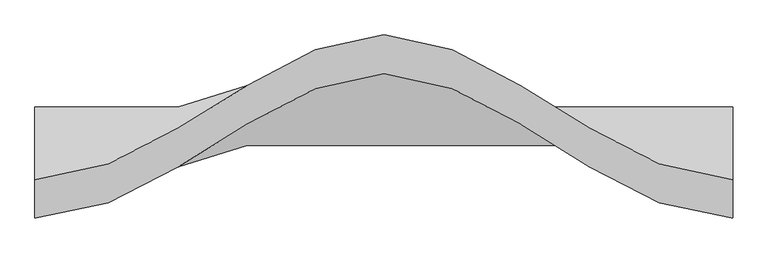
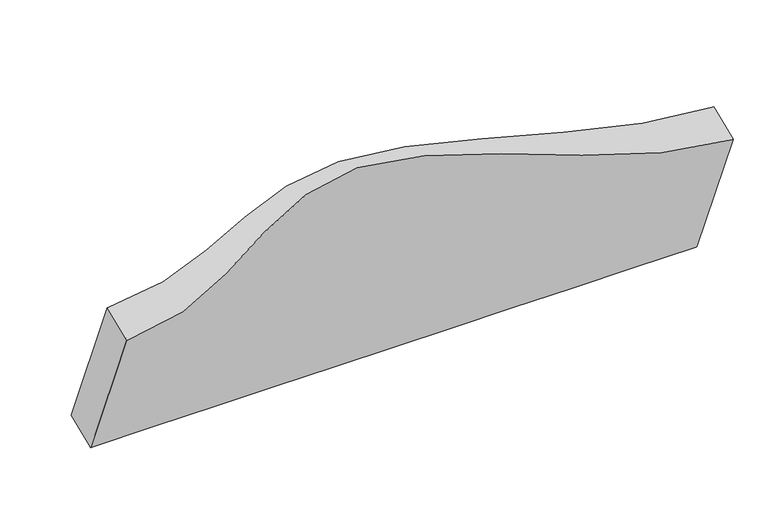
"""IFC4 building model written with IfcOpenShell, lengths in millimetres: plate geometry, مدل پارامتریک کصینوس دار : مدل پارامتریک کصینوس دار."""

from ifc_helpers import new_model, si_unit, frame, origin, place, context, project, spatial, source, transform, mapped, element, save
from ifc_brep_helpers import plane_surface, spline_curve, spline_surface, advanced_brep


def plate_91021fb5(model_context):
    return source(origin(), model_context, "Body", "AdvancedBrep", [
        advanced_brep(
        [(3000.0, 2000.6958488, 0.28823), (3000.0, 2111.5613927, 46.2102419), (5000.0, 2111.5613927, 46.2102419), (5000.0, 2000.6958488, 0.28823), (3000.0, 1904.4546115, 546.2102419), (5000.0, 1904.4546115, 546.2102419), (3000.0, 1793.5890676, 500.28823), (5000.0, 1793.5890676, 500.28823)],
        [
            (0, 1),
            (1, 2, spline_curve(3, [(3000.0, 2111.5613927, 46.2102419), (3001.333546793, 2111.5613927, 46.210696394), (3002.666933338, 2111.5613927, 46.211150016), (3350.399583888, 2111.5613927, 45.974266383), (3675.199791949, 2111.5613927, -46.2102419), (4324.800208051, 2111.5613927, -46.2102419), (4649.600416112, 2111.5613927, 45.974266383), (4997.333066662, 2111.5613927, 46.211150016), (4998.666453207, 2111.5613927, 46.210696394), (5000.0, 2111.5613927, 46.2102419)], [4, 2, 2, 2, 4], [0.0, 0.0019167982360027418, 0.4999999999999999, 0.9980832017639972, 1.0])),
            (2, 3),
            (3, 0, spline_curve(3, [(5000.0, 2000.6958488, 0.28823), (4998.666453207, 2000.6958488, 0.288232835), (4997.333066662, 2000.6958488, 0.288235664), (4649.600416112, 2000.6958488, 0.286758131), (4324.800208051, 2000.6958488, -0.28823), (3675.199791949, 2000.6958488, -0.28823), (3350.399583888, 2000.6958488, 0.286758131), (3002.666933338, 2000.6958488, 0.288235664), (3001.333546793, 2000.6958488, 0.288232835), (3000.0, 2000.6958488, 0.28823)], [4, 2, 2, 2, 4], [0.0, 0.0019167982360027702, 0.5000000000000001, 0.9980832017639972, 1.0])),
            (1, 4),
            (4, 5, spline_curve(3, [(3000.0, 1904.4546115, 546.2102419), (3001.333546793, 1904.452574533, 546.210696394), (3002.666933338, 1904.450541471, 546.211150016), (3350.399583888, 1905.512215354, 545.974266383), (3675.199791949, 2318.6681739, 453.7897581), (4324.800208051, 2318.6681739, 453.7897581), (4649.600416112, 1905.512215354, 545.974266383), (4997.333066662, 1904.450541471, 546.211150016), (4998.666453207, 1904.452574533, 546.210696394), (5000.0, 1904.4546115, 546.2102419)], [4, 2, 2, 2, 4], [0.0, 0.0019167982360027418, 0.4999999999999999, 0.9980832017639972, 1.0])),
            (5, 2),
            (4, 6),
            (6, 7, spline_curve(3, [(3000.0, 1793.5890676, 500.28823), (3001.333546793, 1793.587030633, 500.288232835), (3002.666933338, 1793.584997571, 500.288235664), (3350.399583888, 1794.646671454, 500.286758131), (3675.199791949, 2207.80263, 499.71177), (4324.800208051, 2207.80263, 499.71177), (4649.600416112, 1794.646671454, 500.286758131), (4997.333066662, 1793.584997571, 500.288235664), (4998.666453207, 1793.587030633, 500.288232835), (5000.0, 1793.5890676, 500.28823)], [4, 2, 2, 2, 4], [0.0, 0.0019167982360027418, 0.4999999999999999, 0.9980832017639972, 1.0])),
            (7, 5),
            (6, 0),
            (3, 7),
        ],
        [
            spline_surface(3, 3, [[(3000.0, 2000.6958488, 0.28823), (3001.333546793, 2000.6958488, 0.288232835), (3002.666933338, 2000.6958488, 0.288235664), (3350.39958389, 2000.6958488, 0.286758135), (3675.199791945, 2000.6958488, -0.28823), (4324.800208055, 2000.6958488, -0.28823), (4649.600416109, 2000.6958488, 0.286758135), (4997.333066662, 2000.6958488, 0.288235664), (4998.666453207, 2000.6958488, 0.288232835), (5000.0, 2000.6958488, 0.28823)], [(3000.0, 2037.6510301, 15.595567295), (3001.333546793, 2037.6510301, 15.595720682), (3002.666933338, 2037.6510301, 15.595873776), (3350.39958389, 2037.6510301, 15.515927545), (3675.199791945, 2037.6510301, -15.595567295), (4324.800208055, 2037.6510301, -15.595567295), (4649.600416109, 2037.6510301, 15.515927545), (4997.333066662, 2037.6510301, 15.595873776), (4998.666453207, 2037.6510301, 15.595720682), (5000.0, 2037.6510301, 15.595567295)], [(3000.0, 2074.6062114, 30.902904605), (3001.333546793, 2074.6062114, 30.903208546), (3002.666933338, 2074.6062114, 30.903511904), (3350.39958389, 2074.6062114, 30.745096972), (3675.199791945, 2074.6062114, -30.902904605), (4324.800208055, 2074.6062114, -30.902904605), (4649.600416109, 2074.6062114, 30.745096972), (4997.333066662, 2074.6062114, 30.903511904), (4998.666453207, 2074.6062114, 30.903208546), (5000.0, 2074.6062114, 30.902904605)], [(3000.0, 2111.5613927, 46.2102419), (3001.333546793, 2111.5613927, 46.210696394), (3002.666933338, 2111.5613927, 46.211150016), (3350.39958389, 2111.5613927, 45.974266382), (3675.199791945, 2111.5613927, -46.2102419), (4324.800208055, 2111.5613927, -46.2102419), (4649.600416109, 2111.5613927, 45.974266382), (4997.333066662, 2111.5613927, 46.211150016), (4998.666453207, 2111.5613927, 46.210696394), (5000.0, 2111.5613927, 46.2102419)]], [4, 4], [4, 2, 2, 2, 4], [0.0, 1.0], [0.0, 0.0019167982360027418, 0.4999999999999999, 0.9980832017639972, 1.0]),
            spline_surface(3, 3, [[(3000.0, 2111.5613927, 46.2102419), (3001.333546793, 2111.5613927, 46.210696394), (3002.666933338, 2111.5613927, 46.211150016), (3350.39958389, 2111.5613927, 45.974266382), (3675.199791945, 2111.5613927, -46.2102419), (4324.800208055, 2111.5613927, -46.2102419), (4649.600416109, 2111.5613927, 45.974266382), (4997.333066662, 2111.5613927, 46.211150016), (4998.666453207, 2111.5613927, 46.210696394), (5000.0, 2111.5613927, 46.2102419)], [(3000.0, 2042.525798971, 212.876908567), (3001.333546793, 2042.525119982, 212.87736306), (3002.666933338, 2042.524442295, 212.877816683), (3350.39958389, 2042.87833359, 212.640933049), (3675.199791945, 2180.596986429, 120.456424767), (4324.800208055, 2180.596986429, 120.456424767), (4649.600416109, 2042.87833359, 212.640933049), (4997.333066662, 2042.524442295, 212.877816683), (4998.666453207, 2042.525119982, 212.87736306), (5000.0, 2042.525798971, 212.876908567)], [(3000.0, 1973.490205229, 379.543575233), (3001.333546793, 1973.488847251, 379.544029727), (3002.666933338, 1973.487491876, 379.54448335), (3350.39958389, 1974.195274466, 379.307599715), (3675.199791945, 2249.632580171, 287.123091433), (4324.800208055, 2249.632580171, 287.123091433), (4649.600416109, 1974.195274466, 379.307599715), (4997.333066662, 1973.487491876, 379.54448335), (4998.666453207, 1973.488847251, 379.544029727), (5000.0, 1973.490205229, 379.543575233)], [(3000.0, 1904.4546115, 546.2102419), (3001.333546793, 1904.452574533, 546.210696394), (3002.666933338, 1904.450541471, 546.211150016), (3350.39958389, 1905.512215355, 545.974266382), (3675.199791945, 2318.6681739, 453.7897581), (4324.800208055, 2318.6681739, 453.7897581), (4649.600416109, 1905.512215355, 545.974266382), (4997.333066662, 1904.450541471, 546.211150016), (4998.666453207, 1904.452574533, 546.210696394), (5000.0, 1904.4546115, 546.2102419)]], [4, 4], [4, 2, 2, 2, 4], [0.0, 1.0], [0.0, 0.0019167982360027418, 0.4999999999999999, 0.9980832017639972, 1.0]),
            spline_surface(3, 3, [[(3000.0, 1904.4546115, 546.2102419), (3001.333546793, 1904.452574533, 546.210696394), (3002.666933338, 1904.450541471, 546.211150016), (3350.39958389, 1905.512215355, 545.974266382), (3675.199791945, 2318.6681739, 453.7897581), (4324.800208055, 2318.6681739, 453.7897581), (4649.600416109, 1905.512215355, 545.974266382), (4997.333066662, 1904.450541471, 546.211150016), (4998.666453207, 1904.452574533, 546.210696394), (5000.0, 1904.4546115, 546.2102419)], [(3000.0, 1867.4994302, 530.902904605), (3001.333546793, 1867.497393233, 530.903208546), (3002.666933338, 1867.49536017, 530.903511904), (3350.39958389, 1868.557034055, 530.745096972), (3675.199791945, 2281.7129926, 469.097095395), (4324.800208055, 2281.7129926, 469.097095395), (4649.600416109, 1868.557034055, 530.745096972), (4997.333066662, 1867.49536017, 530.903511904), (4998.666453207, 1867.497393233, 530.903208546), (5000.0, 1867.4994302, 530.902904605)], [(3000.0, 1830.5442489, 515.595567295), (3001.333546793, 1830.542211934, 515.595720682), (3002.666933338, 1830.540178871, 515.595873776), (3350.39958389, 1831.601852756, 515.515927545), (3675.199791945, 2244.7578113, 484.404432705), (4324.800208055, 2244.7578113, 484.404432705), (4649.600416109, 1831.601852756, 515.515927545), (4997.333066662, 1830.540178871, 515.595873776), (4998.666453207, 1830.542211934, 515.595720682), (5000.0, 1830.5442489, 515.595567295)], [(3000.0, 1793.5890676, 500.28823), (3001.333546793, 1793.587030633, 500.288232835), (3002.666933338, 1793.584997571, 500.288235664), (3350.39958389, 1794.646671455, 500.286758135), (3675.199791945, 2207.80263, 499.71177), (4324.800208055, 2207.80263, 499.71177), (4649.600416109, 1794.646671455, 500.286758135), (4997.333066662, 1793.584997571, 500.288235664), (4998.666453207, 1793.587030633, 500.288232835), (5000.0, 1793.5890676, 500.28823)]], [4, 4], [4, 2, 2, 2, 4], [0.0, 1.0], [0.0, 0.0019167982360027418, 0.4999999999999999, 0.9980832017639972, 1.0]),
            spline_surface(3, 3, [[(3000.0, 1793.5890676, 500.28823), (3001.333546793, 1793.587030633, 500.288232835), (3002.666933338, 1793.584997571, 500.288235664), (3350.39958389, 1794.646671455, 500.286758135), (3675.199791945, 2207.80263, 499.71177), (4324.800208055, 2207.80263, 499.71177), (4649.600416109, 1794.646671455, 500.286758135), (4997.333066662, 1793.584997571, 500.288235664), (4998.666453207, 1793.587030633, 500.288232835), (5000.0, 1793.5890676, 500.28823)], [(3000.0, 1862.624661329, 333.621563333), (3001.333546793, 1862.623303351, 333.621566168), (3002.666933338, 1862.621947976, 333.621568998), (3350.39958389, 1863.329730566, 333.620091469), (3675.199791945, 2138.767036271, 333.045103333), (4324.800208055, 2138.767036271, 333.045103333), (4649.600416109, 1863.329730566, 333.620091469), (4997.333066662, 1862.621947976, 333.621568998), (4998.666453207, 1862.623303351, 333.621566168), (5000.0, 1862.624661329, 333.621563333)], [(3000.0, 1931.660255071, 166.954896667), (3001.333546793, 1931.659576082, 166.954899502), (3002.666933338, 1931.658898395, 166.954902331), (3350.39958389, 1932.01278969, 166.953424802), (3675.199791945, 2069.731442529, 166.378436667), (4324.800208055, 2069.731442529, 166.378436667), (4649.600416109, 1932.01278969, 166.953424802), (4997.333066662, 1931.658898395, 166.954902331), (4998.666453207, 1931.659576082, 166.954899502), (5000.0, 1931.660255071, 166.954896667)], [(3000.0, 2000.6958488, 0.28823), (3001.333546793, 2000.6958488, 0.288232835), (3002.666933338, 2000.6958488, 0.288235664), (3350.39958389, 2000.6958488, 0.286758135), (3675.199791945, 2000.6958488, -0.28823), (4324.800208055, 2000.6958488, -0.28823), (4649.600416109, 2000.6958488, 0.286758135), (4997.333066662, 2000.6958488, 0.288235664), (4998.666453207, 2000.6958488, 0.288232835), (5000.0, 2000.6958488, 0.28823)]], [4, 4], [4, 2, 2, 2, 4], [0.0, 1.0], [0.0, 0.0019167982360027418, 0.4999999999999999, 0.9980832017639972, 1.0]),
            plane_surface(frame((5000.0, 1952.5752301, 273.2492359), z_axis=(1.0, 0.0, 0.0), x_axis=(0.0, 0.9238795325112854, 0.38268343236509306))),
            plane_surface(frame((3000.0, 1952.5752301, 273.2492359), z_axis=(-1.0000000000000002, 0.0, 0.0), x_axis=(0.0, -0.38268343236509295, 0.9238795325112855))),
        ],
        [
            (0, [[1, 2, 3, 4]]),
            (1, [[5, 6, 7, -2]]),
            (2, [[8, 9, 10, -6]]),
            (3, [[11, -4, 12, -9]]),
            (4, [[-3, -7, -10, -12]]),
            (5, [[-11, -8, -5, -1]]),
        ],
    ),
    ])


if __name__ == "__main__":
    model = new_model("IFC4")
    model_context = context("Model", 3, world=origin())
    ifc_project = project(units=[si_unit("LENGTHUNIT", "METRE", prefix="MILLI")], contexts=[model_context])
    site = spatial("IfcSite", under=ifc_project)
    building = spatial("IfcBuilding", under=site)
    placement = place(None, origin())
    plate_shape = plate_91021fb5(model_context)
    element("IfcPlate", 1, ObjectType="مدل پارامتریک کصینوس دار : مدل پارامتریک کصینوس دار", at=placement, inside=building, context=model_context, shape_type="MappedRepresentation", body=[
        mapped(plate_shape, transform((0.0, 0.0, 0.0), x_axis=(1.0, 0.0, 0.0), y_axis=(0.0, 1.0, 0.0), z_axis=(0.0, 0.0, 1.0))),
    ])
    save(model, "model.ifc")
